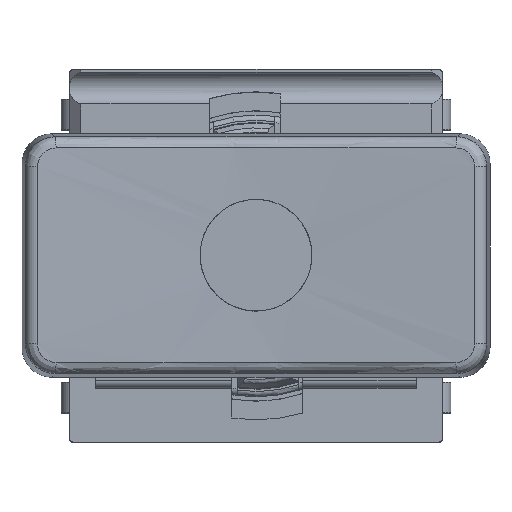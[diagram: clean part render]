
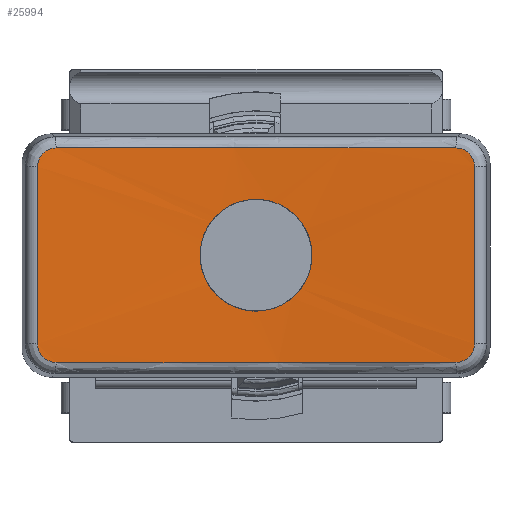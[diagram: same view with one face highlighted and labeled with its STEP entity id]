
A CAD part, top view. The second image highlights one B-rep face of the part: STEP entity #25994.
In plain terms, the highlighted cylindrical face has radius 60 mm (diameter 120 mm), a partial arc.
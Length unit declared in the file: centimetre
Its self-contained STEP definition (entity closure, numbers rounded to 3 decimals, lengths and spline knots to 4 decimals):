
#200=ELLIPSE($,#27534,6.0009,6.);
#201=ELLIPSE($,#27535,6.0009,6.);
#395=FACE_BOUND($,#2856,.T.);
#396=FACE_BOUND($,#2857,.T.);
#2856=EDGE_LOOP($,(#17518));
#2857=EDGE_LOOP($,(#17519,#17520,#17521,#17522,#17523,#17524,#17525,#17526));
#4343=LINE($,#37593,#6841);
#4344=LINE($,#37610,#6842);
#6841=VECTOR($,#30155,0.4755);
#6842=VECTOR($,#30158,0.4755);
#9133=B_SPLINE_CURVE_WITH_KNOTS($,3,(#36093,#36094,#36095,#36096,#36097,
#36098,#36099,#36100,#36101,#36102,#36103,#36104,#36105,#36106,#36107,#36108,
#36109,#36110,#36111,#36112,#36113,#36114,#36115,#36116,#36117,#36118,#36119,
#36120,#36121,#36122,#36123,#36124,#36125,#36126),.UNSPECIFIED.,.T.,.F.,
(4,2,2,2,2,2,2,2,2,2,2,2,2,2,2,2,4),(0.,0.0565,0.113,
0.1695,0.226,0.2825,0.339,
0.3955,0.452,0.5085,0.5651,
0.6216,0.6781,0.7346,0.7911,
0.8476,0.9041),.UNSPECIFIED.);
#9210=B_SPLINE_CURVE_WITH_KNOTS($,3,(#37587,#37588,#37589,#37590,#37591),
 .UNSPECIFIED.,.F.,.F.,(4,1,4),(0.,0.0335,
0.0783),.UNSPECIFIED.);
#9211=B_SPLINE_CURVE_WITH_KNOTS($,3,(#37595,#37596,#37597,#37598,#37599),
 .UNSPECIFIED.,.F.,.F.,(4,1,4),(0.,0.0335,
0.0783),.UNSPECIFIED.);
#9212=B_SPLINE_CURVE_WITH_KNOTS($,3,(#37603,#37604,#37605,#37606,#37607,
#37608),.UNSPECIFIED.,.F.,.F.,(4,1,1,4),(0.,0.0224,
0.0447,0.0783),.UNSPECIFIED.);
#9213=B_SPLINE_CURVE_WITH_KNOTS($,3,(#37612,#37613,#37614,#37615,#37616),
 .UNSPECIFIED.,.F.,.F.,(4,1,4),(-0.0783,-0.0336,
0.),.UNSPECIFIED.);
#10390=VERTEX_POINT($,#36092);
#10630=VERTEX_POINT($,#37585);
#10631=VERTEX_POINT($,#37586);
#10632=VERTEX_POINT($,#37592);
#10633=VERTEX_POINT($,#37594);
#10634=VERTEX_POINT($,#37600);
#10635=VERTEX_POINT($,#37602);
#10636=VERTEX_POINT($,#37609);
#10637=VERTEX_POINT($,#37611);
#12901=EDGE_CURVE($,#10390,#10390,#9133,.T.);
#13292=EDGE_CURVE($,#10630,#10631,#9210,.T.);
#13293=EDGE_CURVE($,#10632,#10630,#4343,.T.);
#13294=EDGE_CURVE($,#10633,#10632,#9211,.T.);
#13295=EDGE_CURVE($,#10634,#10633,#200,.T.);
#13296=EDGE_CURVE($,#10635,#10634,#9212,.T.);
#13297=EDGE_CURVE($,#10636,#10635,#4344,.T.);
#13298=EDGE_CURVE($,#10637,#10636,#9213,.T.);
#13299=EDGE_CURVE($,#10631,#10637,#201,.T.);
#17518=ORIENTED_EDGE($,*,*,#12901,.F.);
#17519=ORIENTED_EDGE($,*,*,#13292,.F.);
#17520=ORIENTED_EDGE($,*,*,#13293,.F.);
#17521=ORIENTED_EDGE($,*,*,#13294,.F.);
#17522=ORIENTED_EDGE($,*,*,#13295,.F.);
#17523=ORIENTED_EDGE($,*,*,#13296,.F.);
#17524=ORIENTED_EDGE($,*,*,#13297,.F.);
#17525=ORIENTED_EDGE($,*,*,#13298,.F.);
#17526=ORIENTED_EDGE($,*,*,#13299,.F.);
#24284=CYLINDRICAL_SURFACE($,#27533,6.);
#25994=ADVANCED_FACE($,(#395,#396),#24284,.F.);
#27533=AXIS2_PLACEMENT_3D($,#37584,#30153,#30154);
#27534=AXIS2_PLACEMENT_3D($,#37601,#30156,#30157);
#27535=AXIS2_PLACEMENT_3D($,#37617,#30159,#30160);
#30153=DIRECTION('center_axis',(0.,1.,0.));
#30154=DIRECTION('ref_axis',(-0.105,0.,
0.995));
#30155=DIRECTION($,(0.,-1.,0.));
#30156=DIRECTION('center_axis',(0.,-1.,
-0.018));
#30157=DIRECTION('ref_axis',(0.,0.018,-1.));
#30158=DIRECTION($,(0.,1.,0.));
#30159=DIRECTION('center_axis',(0.,1.,
-0.018));
#30160=DIRECTION('ref_axis',(0.,-0.018,
-1.));
#36092=CARTESIAN_POINT('',(0.15,0.,1.5453));
#36093=CARTESIAN_POINT('Ctrl Pts',(0.15,0.,
1.5453));
#36094=CARTESIAN_POINT('Ctrl Pts',(0.15,0.0188,
1.5453));
#36095=CARTESIAN_POINT('Ctrl Pts',(0.1462,0.0389,
1.5452));
#36096=CARTESIAN_POINT('Ctrl Pts',(0.1309,0.0759,
1.5449));
#36097=CARTESIAN_POINT('Ctrl Pts',(0.1194,0.0927,1.5446));
#36098=CARTESIAN_POINT('Ctrl Pts',(0.0927,0.1194,
1.5441));
#36099=CARTESIAN_POINT('Ctrl Pts',(0.0759,0.1309,
1.5439));
#36100=CARTESIAN_POINT('Ctrl Pts',(0.0389,0.1462,
1.5435));
#36101=CARTESIAN_POINT('Ctrl Pts',(0.0188,0.15,
1.5434));
#36102=CARTESIAN_POINT('Ctrl Pts',(-0.0188,0.15,
1.5434));
#36103=CARTESIAN_POINT('Ctrl Pts',(-0.0389,0.1462,
1.5435));
#36104=CARTESIAN_POINT('Ctrl Pts',(-0.0759,0.1309,
1.5439));
#36105=CARTESIAN_POINT('Ctrl Pts',(-0.0927,0.1194,
1.5441));
#36106=CARTESIAN_POINT('Ctrl Pts',(-0.1194,0.0927,
1.5446));
#36107=CARTESIAN_POINT('Ctrl Pts',(-0.1309,0.0759,
1.5449));
#36108=CARTESIAN_POINT('Ctrl Pts',(-0.1462,0.0389,
1.5452));
#36109=CARTESIAN_POINT('Ctrl Pts',(-0.15,0.0188,
1.5453));
#36110=CARTESIAN_POINT('Ctrl Pts',(-0.15,-0.0188,
1.5453));
#36111=CARTESIAN_POINT('Ctrl Pts',(-0.1462,-0.0389,
1.5452));
#36112=CARTESIAN_POINT('Ctrl Pts',(-0.1309,-0.0759,
1.5449));
#36113=CARTESIAN_POINT('Ctrl Pts',(-0.1194,-0.0927,
1.5446));
#36114=CARTESIAN_POINT('Ctrl Pts',(-0.0927,-0.1194,
1.5441));
#36115=CARTESIAN_POINT('Ctrl Pts',(-0.0759,-0.1309,
1.5439));
#36116=CARTESIAN_POINT('Ctrl Pts',(-0.0389,-0.1462,
1.5435));
#36117=CARTESIAN_POINT('Ctrl Pts',(-0.0188,-0.15,
1.5434));
#36118=CARTESIAN_POINT('Ctrl Pts',(0.0188,-0.15,
1.5434));
#36119=CARTESIAN_POINT('Ctrl Pts',(0.0389,-0.1462,
1.5435));
#36120=CARTESIAN_POINT('Ctrl Pts',(0.0759,-0.1309,
1.5439));
#36121=CARTESIAN_POINT('Ctrl Pts',(0.0927,-0.1194,
1.5441));
#36122=CARTESIAN_POINT('Ctrl Pts',(0.1194,-0.0927,
1.5446));
#36123=CARTESIAN_POINT('Ctrl Pts',(0.1309,-0.0759,
1.5449));
#36124=CARTESIAN_POINT('Ctrl Pts',(0.1462,-0.0389,
1.5452));
#36125=CARTESIAN_POINT('Ctrl Pts',(0.15,-0.0188,
1.5453));
#36126=CARTESIAN_POINT('Ctrl Pts',(0.15,0.,
1.5453));
#37584=CARTESIAN_POINT('Origin',(0.,0.,
7.5434));
#37585=CARTESIAN_POINT('',(0.5863,-0.2377,1.5722));
#37586=CARTESIAN_POINT('',(0.5366,-0.2878,1.5675));
#37587=CARTESIAN_POINT('Ctrl Pts',(0.5863,-0.2377,
1.5722));
#37588=CARTESIAN_POINT('Ctrl Pts',(0.5863,-0.2489,
1.5722));
#37589=CARTESIAN_POINT('Ctrl Pts',(0.5771,-0.2753,
1.5712));
#37590=CARTESIAN_POINT('Ctrl Pts',(0.5514,-0.2878,
1.5688));
#37591=CARTESIAN_POINT('Ctrl Pts',(0.5366,-0.2878,
1.5675));
#37592=CARTESIAN_POINT('',(0.5863,0.2377,1.5722));
#37593=CARTESIAN_POINT($,(0.5863,0.,1.5722));
#37594=CARTESIAN_POINT('',(0.5366,0.2878,1.5675));
#37595=CARTESIAN_POINT('Ctrl Pts',(0.5366,0.2878,1.5675));
#37596=CARTESIAN_POINT('Ctrl Pts',(0.5477,0.2878,
1.5685));
#37597=CARTESIAN_POINT('Ctrl Pts',(0.5739,0.2786,
1.5709));
#37598=CARTESIAN_POINT('Ctrl Pts',(0.5863,0.2527,
1.5722));
#37599=CARTESIAN_POINT('Ctrl Pts',(0.5863,0.2377,
1.5722));
#37600=CARTESIAN_POINT('',(-0.5366,0.2878,1.5675));
#37601=CARTESIAN_POINT('Origin',(0.,0.183,
7.5434));
#37602=CARTESIAN_POINT('',(-0.5863,0.2377,1.5722));
#37603=CARTESIAN_POINT('Ctrl Pts',(-0.5863,0.2377,
1.5722));
#37604=CARTESIAN_POINT('Ctrl Pts',(-0.5863,0.2452,
1.5722));
#37605=CARTESIAN_POINT('Ctrl Pts',(-0.5829,0.2602,
1.5718));
#37606=CARTESIAN_POINT('Ctrl Pts',(-0.5662,0.2812,
1.5702));
#37607=CARTESIAN_POINT('Ctrl Pts',(-0.5477,0.2878,
1.5685));
#37608=CARTESIAN_POINT('Ctrl Pts',(-0.5366,0.2878,
1.5675));
#37609=CARTESIAN_POINT('',(-0.5863,-0.2377,1.5722));
#37610=CARTESIAN_POINT($,(-0.5863,0.,1.5722));
#37611=CARTESIAN_POINT('',(-0.5366,-0.2878,1.5675));
#37612=CARTESIAN_POINT('Ctrl Pts',(-0.5366,-0.2878,
1.5675));
#37613=CARTESIAN_POINT('Ctrl Pts',(-0.5514,-0.2878,
1.5688));
#37614=CARTESIAN_POINT('Ctrl Pts',(-0.5771,-0.2754,
1.5712));
#37615=CARTESIAN_POINT('Ctrl Pts',(-0.5863,-0.2489,
1.5722));
#37616=CARTESIAN_POINT('Ctrl Pts',(-0.5863,-0.2377,
1.5722));
#37617=CARTESIAN_POINT('Origin',(0.,-0.183,
7.5434));
